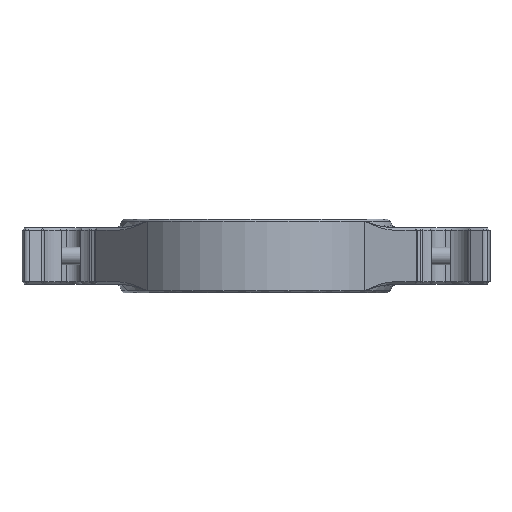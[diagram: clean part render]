
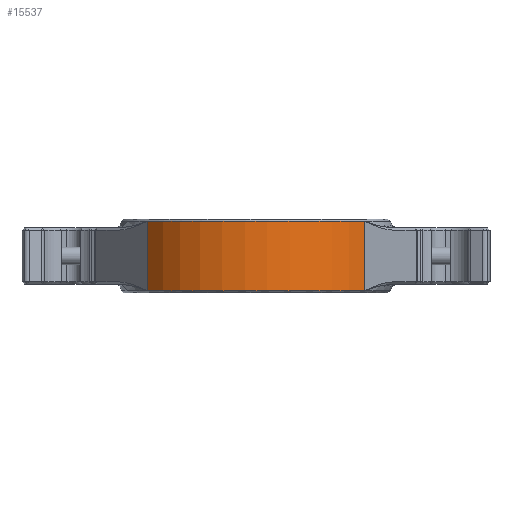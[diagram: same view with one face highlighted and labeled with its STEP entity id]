
A CAD part, front view. The second image highlights one B-rep face of the part: STEP entity #15537.
In plain terms, the highlighted cylindrical face has radius 15.24 mm (diameter 30.48 mm), a partial arc.
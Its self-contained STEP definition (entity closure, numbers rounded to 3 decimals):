
#1446=CARTESIAN_POINT('',(-0.362,-9.856,
1.699));
#1447=DIRECTION('',(0.,0.,-1.));
#1448=DIRECTION('',(0.806,-0.591,0.));
#1449=AXIS2_PLACEMENT_3D('',#1446,#1447,#1448);
#2685=CARTESIAN_POINT('',(11.928,-18.868,9.573));
#2714=CARTESIAN_POINT('',(-12.652,-18.868,
9.573));
#4562=DIRECTION('',(0.,0.,-1.));
#4563=VECTOR('',#4562,7.874);
#4564=CARTESIAN_POINT('',(-12.652,-18.868,
9.573));
#4565=LINE('',#4564,#4563);
#4566=DIRECTION('',(0.,0.,1.));
#4567=VECTOR('',#4566,7.874);
#4568=CARTESIAN_POINT('',(11.928,-18.868,1.699));
#4569=LINE('',#4568,#4567);
#8249=CARTESIAN_POINT('',(-0.362,-9.856,
9.573));
#8250=DIRECTION('',(0.,0.,1.));
#8251=DIRECTION('',(-0.806,-0.591,0.));
#8252=AXIS2_PLACEMENT_3D('',#8249,#8250,#8251);
#10288=CARTESIAN_POINT('',(11.928,-18.868,
1.699));
#10289=CARTESIAN_POINT('',(-12.652,-18.868,
1.699));
#10290=VERTEX_POINT('',#10288);
#10291=VERTEX_POINT('',#10289);
#10440=VERTEX_POINT('',#2685);
#10588=VERTEX_POINT('',#2714);
#15524=CARTESIAN_POINT('',(-0.362,-9.856,
9.827));
#15525=DIRECTION('',(0.,0.,-1.));
#15526=DIRECTION('',(-1.,0.,0.));
#15527=AXIS2_PLACEMENT_3D('',#15524,#15525,#15526);
#15528=CYLINDRICAL_SURFACE('',#15527,15.24);
#15530=ORIENTED_EDGE('',*,*,#15529,.F.);
#15532=ORIENTED_EDGE('',*,*,#15531,.T.);
#15533=ORIENTED_EDGE('',*,*,#15513,.F.);
#15534=ORIENTED_EDGE('',*,*,#11153,.T.);
#15535=EDGE_LOOP('',(#15530,#15532,#15533,#15534));
#15536=FACE_OUTER_BOUND('',#15535,.F.);
#15537=ADVANCED_FACE('',(#15536),#15528,.T.);
#1450=CIRCLE('',#1449,15.24);
#8253=CIRCLE('',#8252,15.24);
#11153=EDGE_CURVE('',#10290,#10291,#1450,.T.);
#15513=EDGE_CURVE('',#10290,#10440,#4569,.T.);
#15529=EDGE_CURVE('',#10588,#10291,#4565,.T.);
#15531=EDGE_CURVE('',#10588,#10440,#8253,.T.);
